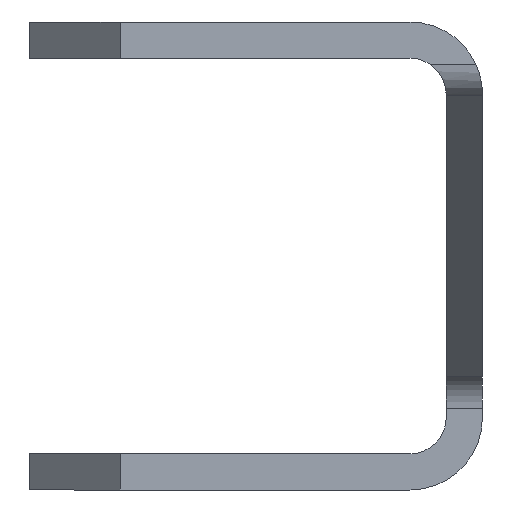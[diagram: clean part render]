
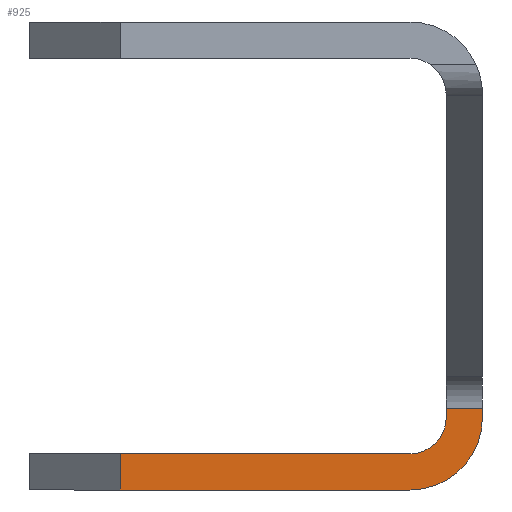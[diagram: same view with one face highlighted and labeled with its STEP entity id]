
A CAD part, left-side view. The second image highlights one B-rep face of the part: STEP entity #925.
In plain terms, the highlighted planar face has unit normal (-1, 0, 0).
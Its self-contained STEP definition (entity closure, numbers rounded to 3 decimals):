
#102 = CARTESIAN_POINT ( 'NONE',  ( -287.5, -6.3, -5.046 ) ) ;
#104 = CARTESIAN_POINT ( 'NONE',  ( -287.5, -5.1, -6.55 ) ) ;
#123 = DIRECTION ( 'NONE',  ( 0., 1., 0. ) ) ;
#124 = CARTESIAN_POINT ( 'NONE',  ( -287.5, 7.5, -6.55 ) ) ;
#125 = LINE ( 'NONE', #124, #677 ) ;
#207 = VECTOR ( 'NONE', #2092, 1000. ) ;
#210 = AXIS2_PLACEMENT_3D ( 'NONE', #2077, #2076, #2075 ) ;
#228 = VECTOR ( 'NONE', #2137, 1000. ) ;
#267 = VECTOR ( 'NONE', #2266, 1000. ) ;
#271 = AXIS2_PLACEMENT_3D ( 'NONE', #2285, #2283, #2280 ) ;
#276 = VECTOR ( 'NONE', #2332, 1000. ) ;
#281 = VECTOR ( 'NONE', #2339, 1000. ) ;
#406 = AXIS2_PLACEMENT_3D ( 'NONE', #2616, #2615, #2614 ) ;
#409 = FACE_OUTER_BOUND ( 'NONE', #1794, .T. ) ;
#677 = VECTOR ( 'NONE', #123, 1000. ) ;
#742 = CIRCLE ( 'NONE', #210, 2.4 ) ;
#925 = ADVANCED_FACE ( 'NONE', ( #409 ), #2618, .F. ) ;
#958 = VERTEX_POINT ( 'NONE', #2481 ) ;
#961 = VERTEX_POINT ( 'NONE', #2478 ) ;
#963 = VERTEX_POINT ( 'NONE', #2476 ) ;
#967 = VERTEX_POINT ( 'NONE', #2472 ) ;
#978 = VERTEX_POINT ( 'NONE', #2456 ) ;
#979 = VERTEX_POINT ( 'NONE', #2455 ) ;
#1123 = ORIENTED_EDGE ( 'NONE', *, *, #1949, .F. ) ;
#1124 = ORIENTED_EDGE ( 'NONE', *, *, #1951, .T. ) ;
#1126 = ORIENTED_EDGE ( 'NONE', *, *, #1944, .T. ) ;
#1127 = ORIENTED_EDGE ( 'NONE', *, *, #2718, .T. ) ;
#1128 = ORIENTED_EDGE ( 'NONE', *, *, #2712, .F. ) ;
#1129 = ORIENTED_EDGE ( 'NONE', *, *, #1942, .T. ) ;
#1130 = ORIENTED_EDGE ( 'NONE', *, *, #2739, .T. ) ;
#1133 = ORIENTED_EDGE ( 'NONE', *, *, #2697, .T. ) ;
#1794 = EDGE_LOOP ( 'NONE', ( #1130, #1129, #1133, #1127, #1128, #1126, #1124, #1123 ) ) ;
#1942 = EDGE_CURVE ( 'NONE', #958, #961, #2341, .T. ) ;
#1944 = EDGE_CURVE ( 'NONE', #967, #2765, #2334, .T. ) ;
#1949 = EDGE_CURVE ( 'NONE', #2763, #978, #1981, .T. ) ;
#1951 = EDGE_CURVE ( 'NONE', #2765, #978, #2270, .T. ) ;
#1981 = CIRCLE ( 'NONE', #271, 1.2 ) ;
#2075 = DIRECTION ( 'NONE',  ( 0., 0., -1. ) ) ;
#2076 = DIRECTION ( 'NONE',  ( -1., 0., 0. ) ) ;
#2077 = CARTESIAN_POINT ( 'NONE',  ( -287.5, -5.1, -5.35 ) ) ;
#2092 = DIRECTION ( 'NONE',  ( 0., 0., -1. ) ) ;
#2093 = CARTESIAN_POINT ( 'NONE',  ( -287.5, -7.5, -4.35 ) ) ;
#2094 = LINE ( 'NONE', #2093, #207 ) ;
#2137 = DIRECTION ( 'NONE',  ( 0., -1., 0. ) ) ;
#2138 = CARTESIAN_POINT ( 'NONE',  ( -287.5, 7.5, -7.75 ) ) ;
#2139 = LINE ( 'NONE', #2138, #228 ) ;
#2266 = DIRECTION ( 'NONE',  ( 0., 0., -1. ) ) ;
#2268 = CARTESIAN_POINT ( 'NONE',  ( -287.5, -6.3, 7.75 ) ) ;
#2270 = LINE ( 'NONE', #2268, #267 ) ;
#2280 = DIRECTION ( 'NONE',  ( 0., 0., -1. ) ) ;
#2283 = DIRECTION ( 'NONE',  ( -1., 0., 0. ) ) ;
#2285 = CARTESIAN_POINT ( 'NONE',  ( -287.5, -5.1, -5.35 ) ) ;
#2332 = DIRECTION ( 'NONE',  ( 0., 1., 0. ) ) ;
#2333 = CARTESIAN_POINT ( 'NONE',  ( -287.5, 7.5, -5.046 ) ) ;
#2334 = LINE ( 'NONE', #2333, #276 ) ;
#2339 = DIRECTION ( 'NONE',  ( 0., 0., -1. ) ) ;
#2340 = CARTESIAN_POINT ( 'NONE',  ( -287.5, 4.5, -4.35 ) ) ;
#2341 = LINE ( 'NONE', #2340, #281 ) ;
#2455 = CARTESIAN_POINT ( 'NONE',  ( -287.5, -5.1, -7.75 ) ) ;
#2456 = CARTESIAN_POINT ( 'NONE',  ( -287.5, -6.3, -5.35 ) ) ;
#2472 = CARTESIAN_POINT ( 'NONE',  ( -287.5, -7.5, -5.046 ) ) ;
#2476 = CARTESIAN_POINT ( 'NONE',  ( -287.5, -7.5, -5.35 ) ) ;
#2478 = CARTESIAN_POINT ( 'NONE',  ( -287.5, 4.5, -7.75 ) ) ;
#2481 = CARTESIAN_POINT ( 'NONE',  ( -287.5, 4.5, -6.55 ) ) ;
#2614 = DIRECTION ( 'NONE',  ( 0., 0., -1. ) ) ;
#2615 = DIRECTION ( 'NONE',  ( 1., 0., 0. ) ) ;
#2616 = CARTESIAN_POINT ( 'NONE',  ( -287.5, 7.5, -4.35 ) ) ;
#2618 = PLANE ( 'NONE',  #406 ) ;
#2697 = EDGE_CURVE ( 'NONE', #961, #979, #2139, .T. ) ;
#2712 = EDGE_CURVE ( 'NONE', #967, #963, #2094, .T. ) ;
#2718 = EDGE_CURVE ( 'NONE', #979, #963, #742, .T. ) ;
#2739 = EDGE_CURVE ( 'NONE', #2763, #958, #125, .T. ) ;
#2763 = VERTEX_POINT ( 'NONE', #104 ) ;
#2765 = VERTEX_POINT ( 'NONE', #102 ) ;
